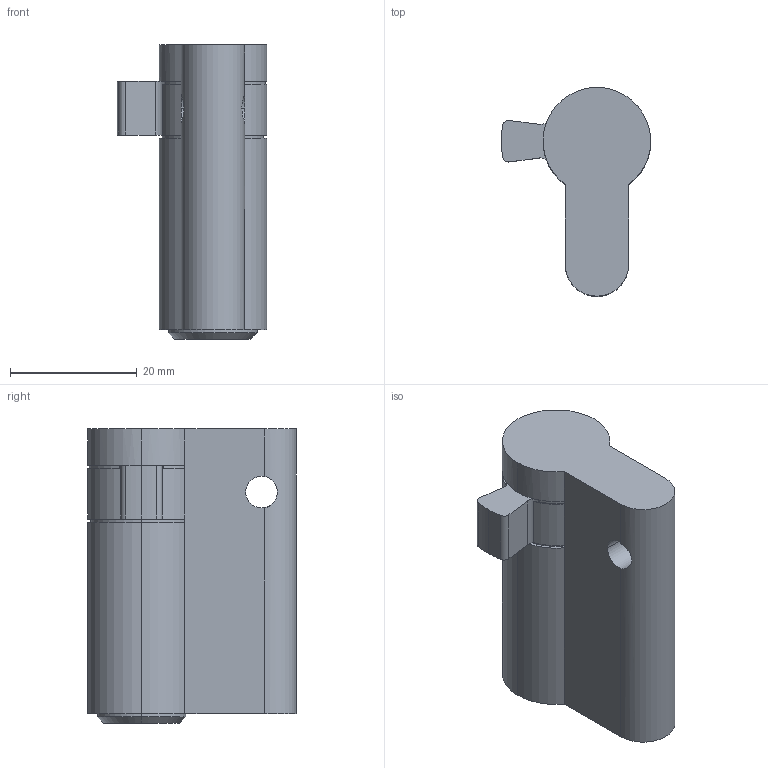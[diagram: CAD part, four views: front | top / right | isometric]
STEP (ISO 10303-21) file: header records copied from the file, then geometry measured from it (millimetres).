
FILE_DESCRIPTION (( 'STEP AP214' ), '1' );
FILE_NAME ('TPL-H-EU-007-R 29Oct2024.STEP', '2024-10-29T22:11:30', ( '' ), ( '' ), 'SwSTEP 2.0', 'SolidWorks 2023', '' );
FILE_SCHEMA (( 'AUTOMOTIVE_DESIGN' ));
Length unit declared in the file: millimetre
Products named in the file (1): TPL-H-EU-007-R 29Oct2024
Bounding box: 23.6 x 33 x 46.5 mm (x, y, z)
Volume: 17172.8 mm3; surface area: 5394.4 mm2
Topology: 1 solids, 1 shells, 46 faces, 127 edges, 80 vertices
Faces by surface type: cylinder 27, plane 16, cone 3
Entity records: 1575 total; most frequent: CARTESIAN_POINT 324, DIRECTION 278, ORIENTED_EDGE 254, EDGE_CURVE 127, AXIS2_PLACEMENT_3D 110, VERTEX_POINT 80, CIRCLE 63, LINE 58
